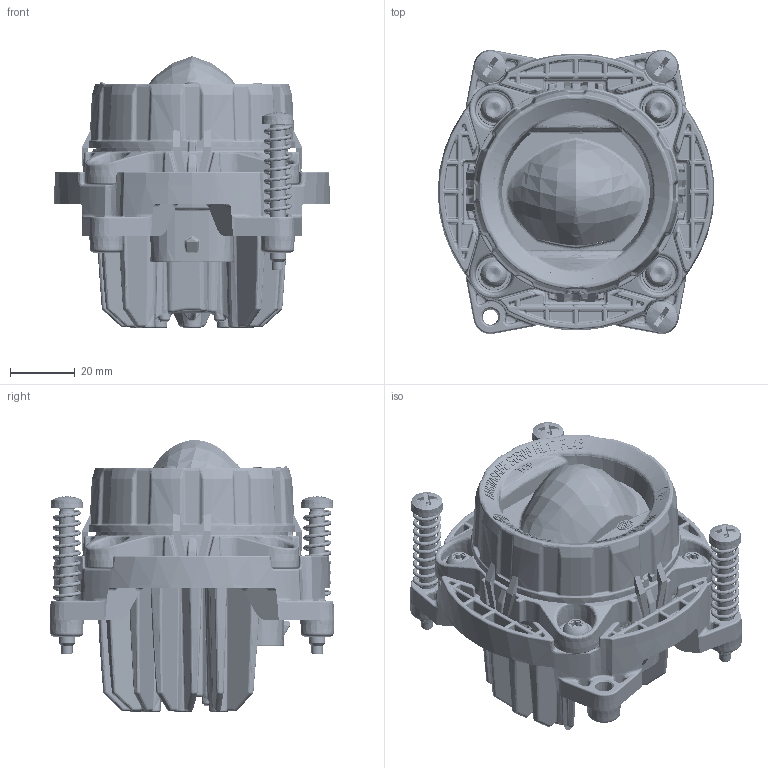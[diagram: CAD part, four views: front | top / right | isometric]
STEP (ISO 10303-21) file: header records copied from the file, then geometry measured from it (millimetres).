
FILE_DESCRIPTION(('CATIA V5 STEP Exchange','CAx-IF Rec.Pracs.--- Model Styling and Organization---1.5--- 2016-08-15','CAx-IF Rec.Pracs.---Supplemental Geometry---1.0---2011-11-01','CAx-IF Rec.Pracs.--- Composite Materials ---1.1---2010-07-15'),'2;1');
FILE_NAME('E:\tmp\ddx\2011204\3D_data_Module_60_LED_low_beam_with_frame_1TL 998 670-04.stp','2022-01-18T07:27:54+00:00',('none'),('none'),'CATIA Version 5-6 Release 2020 SP3 HF9','CATIA V5 STEP AP214 Edition 3 v2','none');
FILE_SCHEMA(('AUTOMOTIVE_DESIGN { 1 0 10303 214 3 1 1 1 }'));
Length unit declared in the file: millimetre
Products named in the file (1): 10002082734_D10_001
Bounding box: 85.6 x 87.9 x 84.03 mm (x, y, z)
Volume: 164537.9 mm3; surface area: 78594.2 mm2
Topology: 1 solids, 6 shells, 8365 faces, 20652 edges, 11629 vertices
Faces by surface type: bspline 3037, plane 1474, cylinder 1145, extrusion 852, torus 788, cone 586, sphere 469, revolution 14
Entity records: 458144 total; most frequent: CARTESIAN_POINT 301758, ORIENTED_EDGE 39746, EDGE_CURVE 19873, DIRECTION 15383, B_SPLINE_CURVE_WITH_KNOTS 12636, VERTEX_POINT 11629, EDGE_LOOP 8548, ADVANCED_FACE 8365
